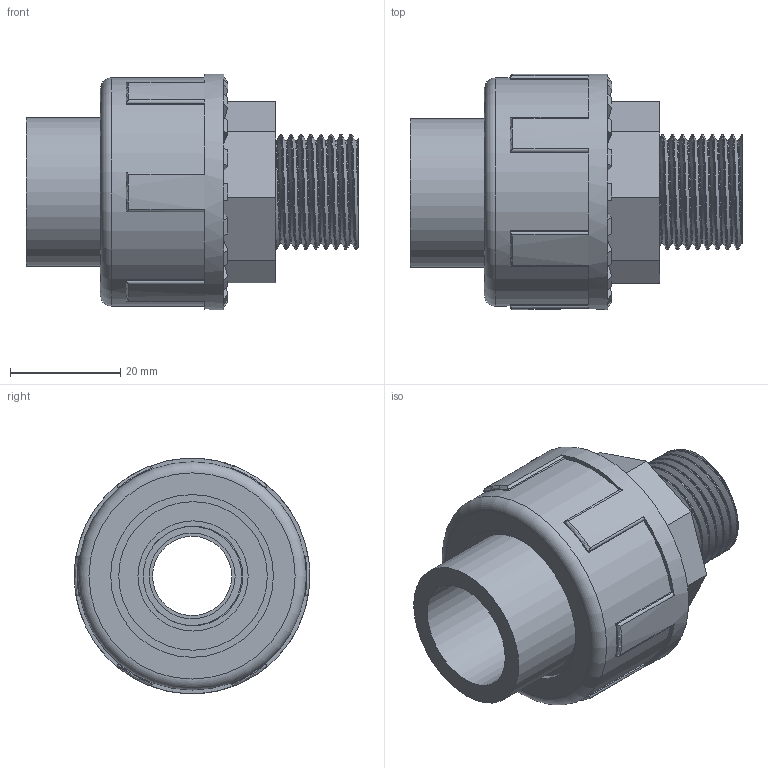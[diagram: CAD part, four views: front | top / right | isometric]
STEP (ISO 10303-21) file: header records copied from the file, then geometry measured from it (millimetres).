
FILE_DESCRIPTION(/* description */ (''),/* implementation_level */ '2;1');
FILE_NAME(/* name */ 'C:\ex desktop\US82\UN82020B\US82020B.stp',/* time_stamp */ '2019-07-16T16:46:06+02:00',/* author */ ('e.sacchi'),/* organization */ (''),/* preprocessor_version */ 'ST-DEVELOPER v16.13',/* originating_system */ 'Autodesk Inventor 2018',/* authorisation */ '');
FILE_SCHEMA (('AUTOMOTIVE_DESIGN { 1 0 10303 214 3 1 1 }'));
Length unit declared in the file: millimetre
Products named in the file (5): US82020B; parte interna; guarnizione; parte interna2; ghiera
Assembly tree (4 placements, depth 2):
  US82020B
    parte interna
    guarnizione
    parte interna2
    ghiera
Bounding box: 60.31 x 42.77 x 42.78 mm (x, y, z)
Volume: 36612.5 mm3; surface area: 30088 mm2
Topology: 7 solids, 7 shells, 190 faces, 448 edges, 298 vertices
Faces by surface type: plane 132, cylinder 32, bspline 18, torus 8
Full cylindrical faces by diameter (mm): 14.4 x1, 15.6 x1, 18 x1, 18.094 x1, 18.592 x2, 20 x1, 27 x2, 29.559 x1, 30 x1, 30.236 x2, 33.25 x2, 41.45 x1, 42.8 x1
Entity records: 17746 total; most frequent: CARTESIAN_POINT 13327, ORIENTED_EDGE 856, DIRECTION 816, EDGE_CURVE 428, VERTEX_POINT 296, AXIS2_PLACEMENT_3D 276, LINE 264, VECTOR 264
